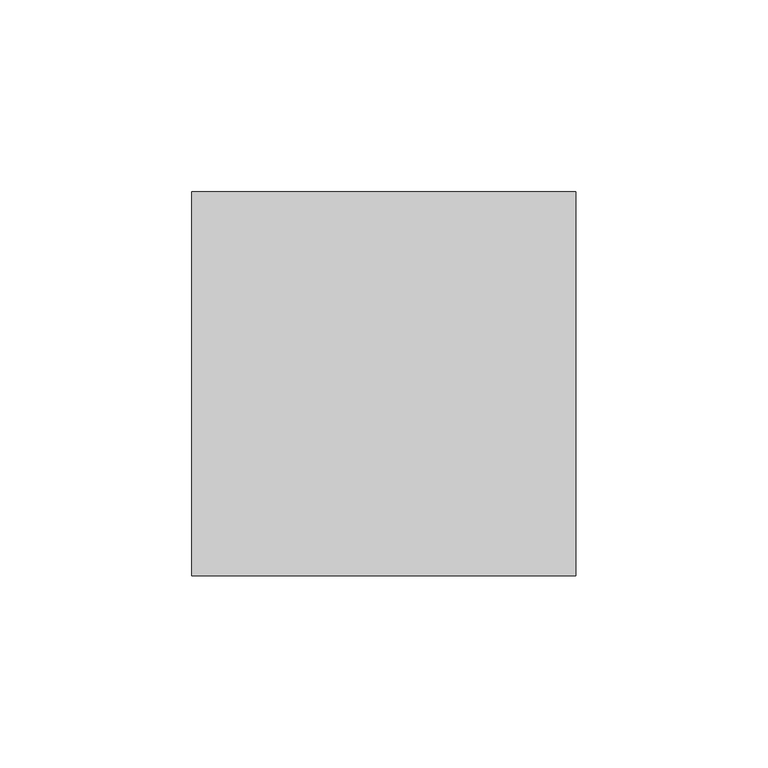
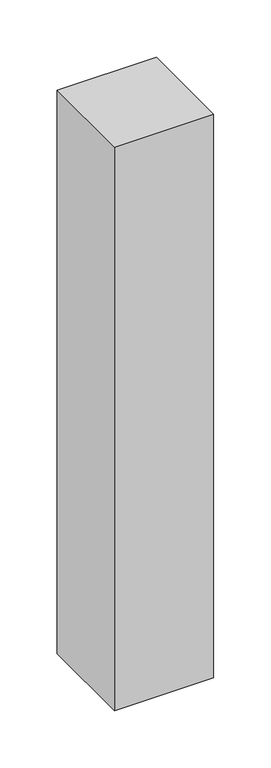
"""IFC4 building model written with IfcOpenShell, lengths in millimetres: member geometry, Montante angular cuadrilátero : Montante cuadrilátero 1."""

import ifcopenshell
import ifcopenshell.guid

model = None  # the IFC model being written
_history = None  # IfcOwnerHistory: only IFC2X3 demands one
_inside = {}  # id of a spatial element -> (the spatial element, [elements in it])
_under = {}  # id of a project, library or spatial element -> (it, [spatial elements below it])
_declared = {}  # id of a project -> (the project, [libraries it declares])
_typed = {}  # id of a type object -> (the type object, [elements of that type])
_made_of = {}  # id of a material, layer set ... -> (it, [elements and type objects made of it])


def new_model(schema):
    """Start an empty IFC model of exactly this schema.

    Asked for "IFC4X3", IfcOpenShell would pick the latest addendum, in which some entities
    have other attributes; the version numbers below select the first issue.
    IFC2X3 requires an IfcOwnerHistory on every rooted entity: one is made here for all.
    """
    global model, _history
    if schema == "IFC4X3":
        model = ifcopenshell.file(schema_version=(4, 3, 0, 0))
    else:
        model = ifcopenshell.file(schema=schema)
    _inside.clear()
    _under.clear()
    _declared.clear()
    _typed.clear()
    _made_of.clear()
    _history = None
    if model.schema == "IFC2X3":
        org = make("IfcOrganization", Name="unknown")
        user = make(
            "IfcPersonAndOrganization",
            ThePerson=make("IfcPerson", FamilyName="unknown"),
            TheOrganization=org,
        )
        app = make(
            "IfcApplication",
            ApplicationDeveloper=org,
            Version="unknown",
            ApplicationFullName="unknown",
            ApplicationIdentifier="unknown",
        )
        _history = make(
            "IfcOwnerHistory",
            OwningUser=user,
            OwningApplication=app,
            ChangeAction="ADDED",
            CreationDate=0,
        )
    return model


def make(cls, **values):
    """One entity of the class cls with the attributes given. An attribute that is None is left unset."""
    return model.create_entity(
        cls, **{name: value for name, value in values.items() if value is not None}
    )


def rooted(cls, **values):
    """An entity with a GlobalId (a new one), such as an element, a storey or a relation."""
    return make(cls, GlobalId=ifcopenshell.guid.new(), OwnerHistory=_history, **values)


def si_unit(unit_type, name, prefix=None):
    """IfcSIUnit, for example si_unit("LENGTHUNIT", "METRE", prefix="MILLI")."""
    return make("IfcSIUnit", UnitType=unit_type, Prefix=prefix, Name=name)


def assignment(units):
    """IfcUnitAssignment: the units of a project."""
    return None if units is None else make("IfcUnitAssignment", Units=units)


def point(xyz):
    """IfcCartesianPoint."""
    return None if xyz is None else make("IfcCartesianPoint", Coordinates=xyz)


def direction(xyz):
    """IfcDirection."""
    return None if xyz is None else make("IfcDirection", DirectionRatios=xyz)


def frame(location, z_axis=None, x_axis=None):
    """IfcAxis2Placement3D, a coordinate frame: its origin and axes. An axis left out is left unset."""
    return make(
        "IfcAxis2Placement3D",
        Location=point(location),
        Axis=direction(z_axis),
        RefDirection=direction(x_axis),
    )


def origin():
    """The frame at (0, 0, 0) with its axes left unset."""
    return frame((0.0, 0.0, 0.0))


def place(relative_to, where):
    """IfcLocalPlacement: puts the frame where relative to a parent placement (None: the world)."""
    return make(
        "IfcLocalPlacement", PlacementRelTo=relative_to, RelativePlacement=where
    )


def context(
    kind, dimensions, precision=None, world=None, true_north=None, identifier=None
):
    """IfcGeometricRepresentationContext, for example the 3D "Model" context."""
    return make(
        "IfcGeometricRepresentationContext",
        ContextIdentifier=identifier,
        ContextType=kind,
        CoordinateSpaceDimension=dimensions,
        Precision=precision,
        WorldCoordinateSystem=world,
        TrueNorth=true_north,
    )


def project(units=None, contexts=None):
    """IfcProject with its units and contexts."""
    return rooted(
        "IfcProject",
        Name="project",
        RepresentationContexts=contexts,
        UnitsInContext=assignment(units),
    )


def spatial(cls, under=None, at=None, **own):
    """A site, building, storey or space (cls), placed at a placement, below another one or the project."""
    s = rooted(cls, ObjectPlacement=at, **own)
    if under is not None:
        _under.setdefault(under.id(), (under, []))[1].append(s)
    return s


def polyline(points):
    """IfcPolyline through the points."""
    return make("IfcPolyline", Points=[point(p) for p in points])


def outline(outer, holes=None, kind="AREA"):
    """IfcArbitraryClosedProfileDef: a profile drawn as a closed curve; with holes, ...WithVoids."""
    if holes is None:
        return make("IfcArbitraryClosedProfileDef", ProfileType=kind, OuterCurve=outer)
    return make(
        "IfcArbitraryProfileDefWithVoids",
        ProfileType=kind,
        OuterCurve=outer,
        InnerCurves=holes,
    )


def extrude(swept, where, along, depth):
    """IfcExtrudedAreaSolid: the profile swept, set in the frame where, extruded along a direction by depth."""
    return make(
        "IfcExtrudedAreaSolid",
        SweptArea=swept,
        Position=where,
        ExtrudedDirection=direction(along),
        Depth=depth,
    )


def shape(context_of_items, identifier, shape_type, items):
    """IfcShapeRepresentation: the items that make up one representation, for example the "Body"."""
    return make(
        "IfcShapeRepresentation",
        ContextOfItems=context_of_items,
        RepresentationIdentifier=identifier,
        RepresentationType=shape_type,
        Items=items,
    )


def source(mapping_origin, context_of_items, identifier, shape_type, items):
    """IfcRepresentationMap: a shape defined once, which mapped items show again and again."""
    return make(
        "IfcRepresentationMap",
        MappingOrigin=mapping_origin,
        MappedRepresentation=shape(context_of_items, identifier, shape_type, items),
    )


def transform(
    local_origin,
    x_axis=None,
    y_axis=None,
    z_axis=None,
    scale=None,
    scale2=None,
    scale3=None,
    uniform=True,
):
    """IfcCartesianTransformationOperator3D, or its non-uniform kind. x_axis, y_axis, z_axis: its Axis1, 2, 3."""
    if uniform:
        return make(
            "IfcCartesianTransformationOperator3D",
            Axis1=direction(x_axis),
            Axis2=direction(y_axis),
            LocalOrigin=point(local_origin),
            Scale=scale,
            Axis3=direction(z_axis),
        )
    return make(
        "IfcCartesianTransformationOperator3DnonUniform",
        Axis1=direction(x_axis),
        Axis2=direction(y_axis),
        LocalOrigin=point(local_origin),
        Scale=scale,
        Axis3=direction(z_axis),
        Scale2=scale2,
        Scale3=scale3,
    )


def mapped(mapping_source, mapping_target):
    """IfcMappedItem: shows the shape of a source again, moved by a transform."""
    return make(
        "IfcMappedItem", MappingSource=mapping_source, MappingTarget=mapping_target
    )


def made_of(thing, what):
    """Note that an element or type object is made of a material, layer set ...; save() writes the relation."""
    if what is not None:
        _made_of.setdefault(what.id(), (what, []))[1].append(thing)
    return thing


def element(
    cls,
    number,
    at=None,
    inside=None,
    cuts=None,
    type_object=None,
    material=None,
    context=None,
    identifier="Body",
    shape_type=None,
    held_by="IfcProductDefinitionShape",
    body=None,
    shapes=None,
    **own,
):
    """One element of the class cls, such as IfcWall. Its Tag is "e" and its number.

    at: its placement. inside: the storey or other place that contains it. cuts: it is an
    opening in that element (IfcRelVoidsElement). A single representation is given by context,
    identifier, shape_type and body (its items); several are given by shapes. held_by: the class
    of the entity that holds the representations. save() writes the other relations.
    """
    e = rooted(cls, Tag="e%d" % number, ObjectPlacement=at, **own)
    if body is not None:
        shapes = [shape(context, identifier, shape_type, body)]
    if shapes is not None:
        e.Representation = make(held_by, Representations=shapes)
    if inside is not None:
        _inside.setdefault(inside.id(), (inside, []))[1].append(e)
    if cuts is not None:
        rooted(
            "IfcRelVoidsElement", RelatingBuildingElement=cuts, RelatedOpeningElement=e
        )
    if type_object is not None:
        _typed.setdefault(type_object.id(), (type_object, []))[1].append(e)
    return made_of(e, material)


def aggregate(whole, parts):
    """IfcRelAggregates: a whole, such as a stair, and the parts it consists of."""
    return rooted("IfcRelAggregates", RelatingObject=whole, RelatedObjects=parts)


def save(model, path):
    """Write the relations noted so far, then the file.

    IfcRelAggregates (storeys below a building ...), IfcRelContainedInSpatialStructure (elements
    in a storey), IfcRelDefinesByType, IfcRelAssociatesMaterial and IfcRelDeclares: one each for
    every whole, place, type object, material and project.
    """
    for whole, parts in _under.values():
        aggregate(whole, parts)
    for where, things in _inside.values():
        rooted(
            "IfcRelContainedInSpatialStructure",
            RelatedElements=things,
            RelatingStructure=where,
        )
    for kind, things in _typed.values():
        rooted("IfcRelDefinesByType", RelatedObjects=things, RelatingType=kind)
    for what, things in _made_of.values():
        rooted("IfcRelAssociatesMaterial", RelatedObjects=things, RelatingMaterial=what)
    for by, libraries in _declared.values():
        rooted("IfcRelDeclares", RelatingContext=by, RelatedDefinitions=libraries)
    model.write(path)


def member_b3e309fe(model_context):
    return source(origin(), model_context, "Body", "SweptSolid", [
        extrude(outline(polyline([(50.0, -50.0), (-50.0, -50.0), (-50.0, 50.0), (50.0, 50.0), (50.0, -50.0)])), frame((0.0, 0.0, -600.0), z_axis=(0.0, 0.0, 1.0), x_axis=(1.0, 0.0, 0.0)), (0.0, 0.0, 1.0), 600.0),
    ])


if __name__ == "__main__":
    model = new_model("IFC4")
    model_context = context("Model", 3, world=origin())
    ifc_project = project(units=[si_unit("LENGTHUNIT", "METRE", prefix="MILLI")], contexts=[model_context])
    site = spatial("IfcSite", under=ifc_project)
    building = spatial("IfcBuilding", under=site)
    placement = place(None, origin())
    member_shape = member_b3e309fe(model_context)
    element("IfcMember", 1, ObjectType="Montante angular cuadrilátero : Montante cuadrilátero 1", at=placement, inside=building, context=model_context, shape_type="MappedRepresentation", body=[
        mapped(member_shape, transform((0.0, 0.0, 0.0), x_axis=(1.0, 0.0, 0.0), y_axis=(0.0, 1.0, 0.0), z_axis=(0.0, 0.0, 1.0))),
    ])
    save(model, "model.ifc")
